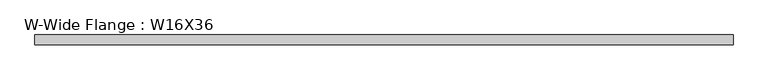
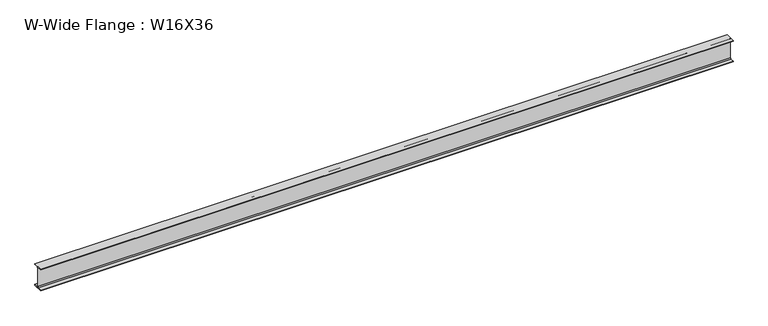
"""IFC4 building model written with IfcOpenShell, lengths in millimetres: beam geometry, W-Wide Flange : W16X36."""

from ifc_helpers import new_model, si_unit, point, frame, frame_2d, origin, place, context, project, spatial, polyline, circle_curve, trimmed, segment, composite_curve, outline, extrude, source, transform, mapped, element, save


def w_wide_flange_w16x36_bd9ffc40(model_context):
    return source(origin(), model_context, "Body", "SweptSolid", [
        extrude(outline(composite_curve([segment(polyline([(88.773, -191.008), (88.773, -201.93), (-88.773, -201.93), (-88.773, -191.008), (-21.3995, -191.008)]), True, "CONTINUOUS"), segment(trimmed(circle_curve(frame_2d((-21.3995, -173.355)), 17.653), [point((-21.3995, -191.008))], [point((-3.7465, -173.355))], True, "CARTESIAN"), True, "CONTINUOUS"), segment(polyline([(-3.7465, -173.355), (-3.7465, 173.355)]), True, "CONTINUOUS"), segment(trimmed(circle_curve(frame_2d((-21.3995, 173.355)), 17.653), [point((-3.7465, 173.355))], [point((-21.3995, 191.008))], True, "CARTESIAN"), True, "CONTINUOUS"), segment(polyline([(-21.3995, 191.008), (-88.773, 191.008), (-88.773, 201.93), (88.773, 201.93), (88.773, 191.008), (21.3995, 191.008)]), True, "CONTINUOUS"), segment(trimmed(circle_curve(frame_2d((21.3995, 173.355)), 17.653), [point((21.3995, 191.008))], [point((3.7465, 173.355))], True, "CARTESIAN"), True, "CONTINUOUS"), segment(polyline([(3.7465, 173.355), (3.7465, -173.355)]), True, "CONTINUOUS"), segment(trimmed(circle_curve(frame_2d((21.3995, -173.355)), 17.653), [point((3.7465, -173.355))], [point((21.3995, -191.008))], True, "CARTESIAN"), True, "CONTINUOUS"), segment(polyline([(21.3995, -191.008), (88.773, -191.008)]), True, "CONTINUOUS")], self_intersect=False)), frame((-6448.908556, 0.0, 0.0), z_axis=(1.0, 0.0, 0.0), x_axis=(0.0, 1.0, 0.0)), (0.0, 0.0, 1.0), 12417.0483629),
    ])


if __name__ == "__main__":
    model = new_model("IFC4")
    model_context = context("Model", 3, world=origin())
    ifc_project = project(units=[si_unit("LENGTHUNIT", "METRE", prefix="MILLI")], contexts=[model_context])
    site = spatial("IfcSite", under=ifc_project)
    building = spatial("IfcBuilding", under=site)
    placement = place(None, origin())
    w_wide_flange_w16x36_shape = w_wide_flange_w16x36_bd9ffc40(model_context)
    element("IfcBeam", 1, ObjectType="W-Wide Flange : W16X36", at=placement, inside=building, context=model_context, shape_type="MappedRepresentation", body=[
        mapped(w_wide_flange_w16x36_shape, transform((0.0, 0.0, 0.0), x_axis=(1.0, 0.0, 0.0), y_axis=(0.0, 1.0, 0.0), z_axis=(0.0, 0.0, 1.0))),
    ])
    save(model, "model.ifc")
